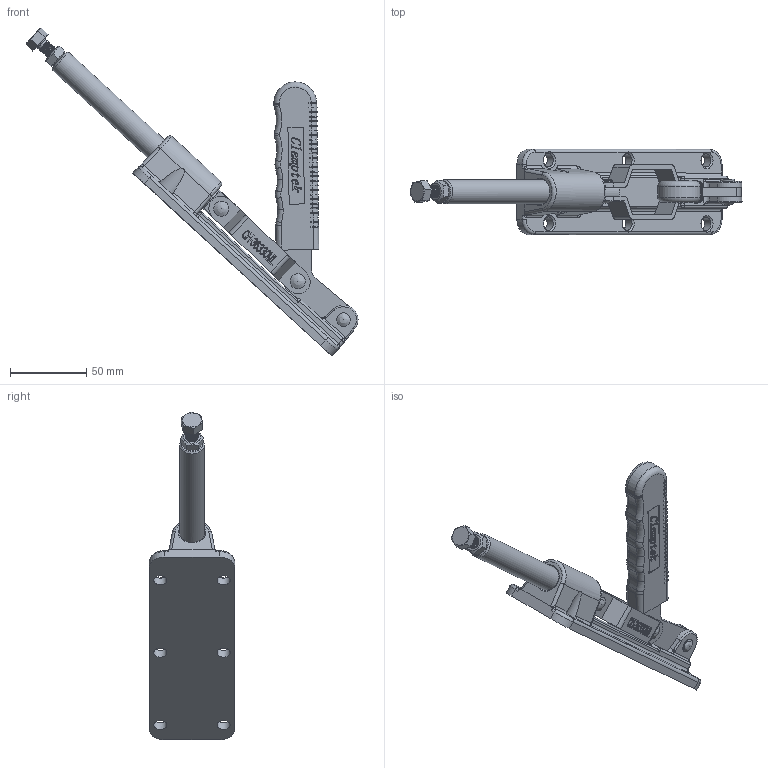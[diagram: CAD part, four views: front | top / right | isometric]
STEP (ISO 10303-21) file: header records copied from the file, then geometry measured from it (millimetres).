
FILE_DESCRIPTION(/* description */ (''),/* implementation_level */ '2;1');
FILE_NAME(/* name */ 'D:\Vault_2016\Projekty\STRONA\Push-pull clamp\CH-36330ML\CH-36330ML_ZAMKNIETY.stp',/* time_stamp */ '2019-01-11T11:48:28+01:00',/* author */ ('user'),/* organization */ (''),/* preprocessor_version */ 'ST-DEVELOPER v17.2',/* originating_system */ 'Autodesk Inventor 2019',/* authorisation */ '');
FILE_SCHEMA (('AUTOMOTIVE_DESIGN { 1 0 10303 214 3 1 1 }'));
Products named in the file (11): CH-36330ML_ZAMKNIETY; 36330MLDC; 36330-MLSHOUBA; 36330MLSHOUB; 36330-MLDINGZHOU; 36330-MLLIANGA; PRT0001; M8_NUT_____; CH-SA-085012_SPINDLE_SUPPLIED__; PRT0002; PRT0003
Assembly tree (11 placements, depth 2):
  CH-36330ML_ZAMKNIETY
    36330MLDC
    36330-MLSHOUBA
    36330MLSHOUB
    36330-MLDINGZHOU
    36330-MLLIANGA
    PRT0001
    M8_NUT_____
    CH-SA-085012_SPINDLE_SUPPLIED__
    PRT0002  x2
    PRT0003
Bounding box: 217.38 x 56 x 214.61 mm (x, y, z)
Volume: 192532.5 mm3; surface area: 74111.1 mm2
Topology: 15 solids, 15 shells, 1815 faces, 4947 edges, 3199 vertices
Faces by surface type: plane 852, bspline 513, cylinder 329, torus 92, cone 21, sphere 8
Full cylindrical faces by diameter (mm): 3.195 x1, 4.031 x1, 6.4 x12, 6.5 x4, 7 x37, 8 x37, 8.7 x6, 9.416 x2, 16 x2
Entity records: 116017 total; most frequent: CARTESIAN_POINT 72884, ORIENTED_EDGE 9836, DIRECTION 7326, EDGE_CURVE 4918, VERTEX_POINT 3186, LINE 3048, VECTOR 3048, AXIS2_PLACEMENT_3D 2139
